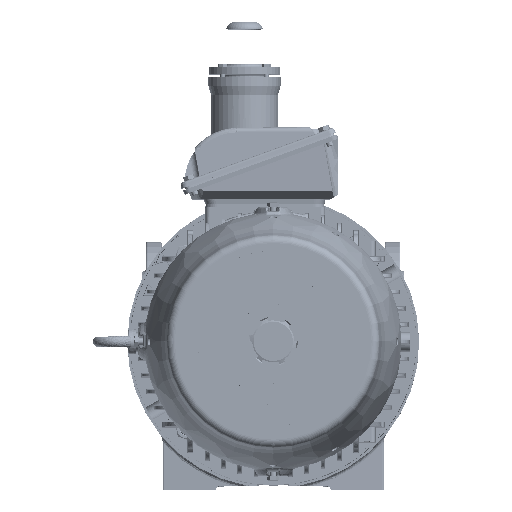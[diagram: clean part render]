
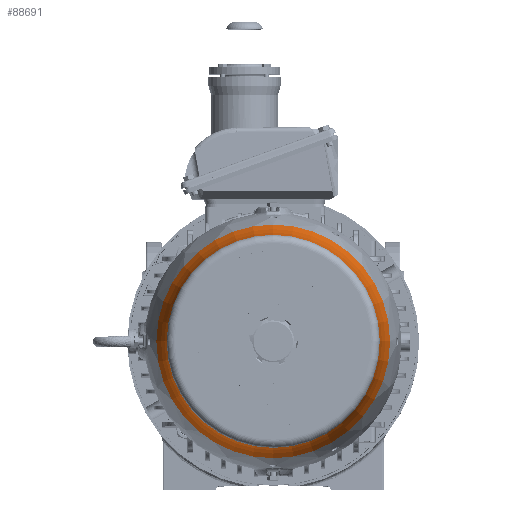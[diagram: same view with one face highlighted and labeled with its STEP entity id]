
A CAD part, top view. The second image highlights one B-rep face of the part: STEP entity #88691.
In plain terms, the highlighted toroidal (fillet/blend) face has major radius 308.616 mm and minor radius 180 mm.
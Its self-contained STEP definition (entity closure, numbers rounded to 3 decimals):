
#1215=TOROIDAL_SURFACE('',#96633,308.617,180.);
#11241=FACE_OUTER_BOUND('',#16548,.T.);
#16548=EDGE_LOOP('',(#71117,#71118,#71119,#71120,#71121,#71122));
#21514=CIRCLE('',#96630,129.927);
#21515=CIRCLE('',#96631,129.927);
#21517=CIRCLE('',#96634,142.487);
#21518=CIRCLE('',#96635,142.487);
#21519=CIRCLE('',#96636,180.);
#38910=VERTEX_POINT('',#167401);
#38911=VERTEX_POINT('',#167402);
#38912=VERTEX_POINT('',#167407);
#38913=VERTEX_POINT('',#167408);
#50197=EDGE_CURVE('',#38910,#38911,#21514,.T.);
#50198=EDGE_CURVE('',#38911,#38910,#21515,.T.);
#50200=EDGE_CURVE('',#38912,#38913,#21517,.T.);
#50201=EDGE_CURVE('',#38913,#38912,#21518,.T.);
#50202=EDGE_CURVE('',#38913,#38911,#21519,.T.);
#71117=ORIENTED_EDGE('',*,*,#50200,.F.);
#71118=ORIENTED_EDGE('',*,*,#50201,.F.);
#71119=ORIENTED_EDGE('',*,*,#50202,.T.);
#71120=ORIENTED_EDGE('',*,*,#50198,.T.);
#71121=ORIENTED_EDGE('',*,*,#50197,.T.);
#71122=ORIENTED_EDGE('',*,*,#50202,.F.);
#88691=ADVANCED_FACE('',(#11241),#1215,.F.);
#96630=AXIS2_PLACEMENT_3D('',#167403,#115105,#115106);
#96631=AXIS2_PLACEMENT_3D('',#167404,#115107,#115108);
#96633=AXIS2_PLACEMENT_3D('',#167406,#115111,#115112);
#96634=AXIS2_PLACEMENT_3D('',#167409,#115113,#115114);
#96635=AXIS2_PLACEMENT_3D('',#167410,#115115,#115116);
#96636=AXIS2_PLACEMENT_3D('',#167411,#115117,#115118);
#115105=DIRECTION('center_axis',(0.,0.,
-1.));
#115106=DIRECTION('ref_axis',(-1.,0.,0.));
#115107=DIRECTION('center_axis',(0.,0.,
-1.));
#115108=DIRECTION('ref_axis',(-1.,0.,0.));
#115111=DIRECTION('center_axis',(0.,0.,
-1.));
#115112=DIRECTION('ref_axis',(-1.,0.,0.));
#115113=DIRECTION('center_axis',(0.,0.,
-1.));
#115114=DIRECTION('ref_axis',(-1.,0.,0.));
#115115=DIRECTION('center_axis',(0.,0.,
-1.));
#115116=DIRECTION('ref_axis',(-1.,0.,0.));
#115117=DIRECTION('center_axis',(0.,1.,0.));
#115118=DIRECTION('ref_axis',(1.,0.,0.));
#167401=CARTESIAN_POINT('',(-129.927,0.,645.405));
#167402=CARTESIAN_POINT('',(129.927,0.,645.405));
#167403=CARTESIAN_POINT('Origin',(0.,0.,
645.405));
#167404=CARTESIAN_POINT('Origin',(0.,0.,
645.405));
#167406=CARTESIAN_POINT('Origin',(0.,0.,
667.087));
#167407=CARTESIAN_POINT('',(-142.487,0.,597.799));
#167408=CARTESIAN_POINT('',(142.487,0.,597.799));
#167409=CARTESIAN_POINT('Origin',(0.,0.,
597.799));
#167410=CARTESIAN_POINT('Origin',(0.,0.,
597.799));
#167411=CARTESIAN_POINT('Origin',(308.617,0.,
667.087));
